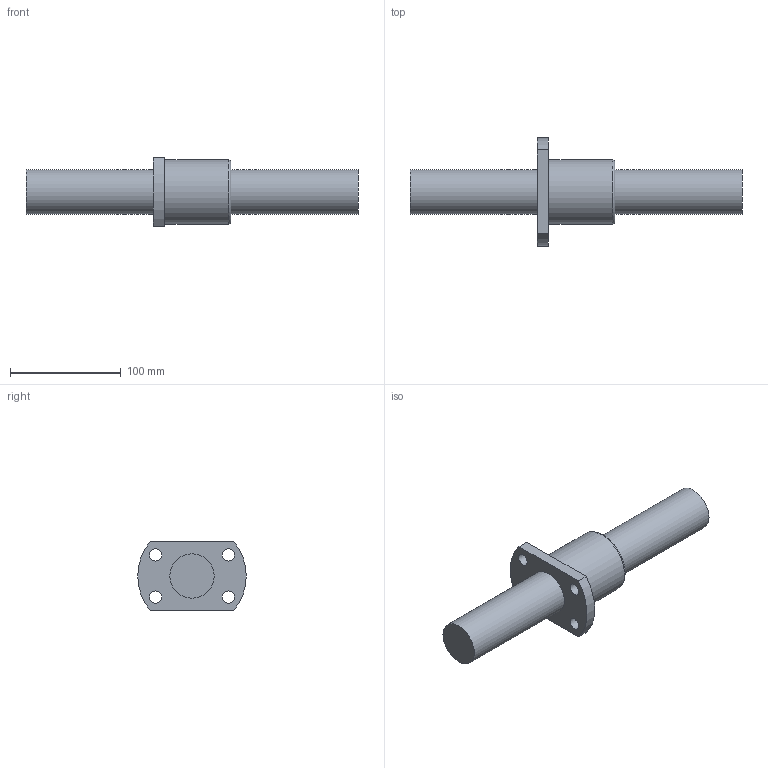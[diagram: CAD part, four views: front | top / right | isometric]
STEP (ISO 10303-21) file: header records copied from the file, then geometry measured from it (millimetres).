
FILE_DESCRIPTION((''),'2;1');
FILE_NAME('D:\製品 (図面)\カタログ用3D\ネジ関連\STEP形式\TMK\TMK40.stp','2010-06-02T15:26:15',('Tsuchiya'),(''),'Autodesk Inventor 10','Autodesk Inventor 10','');
FILE_SCHEMA(('AUTOMOTIVE_DESIGN { 1 0 10303 214 1 1 1 1 }'));
Length unit declared in the file: millimetre
Products named in the file (3): TMK40; TMK401; TMK402
Assembly tree (2 placements, depth 2):
  TMK40
    TMK401
    TMK402
Bounding box: 300 x 98 x 62 mm (x, y, z)
Volume: 500025.1 mm3; surface area: 71997.2 mm2
Topology: 2 solids, 2 shells, 18 faces, 41 edges, 28 vertices
Faces by surface type: plane 7, cylinder 5, bspline 5, torus 1
Full cylindrical faces by diameter (mm): 40 x2, 58 x1
Entity records: 628 total; most frequent: CARTESIAN_POINT 187, DIRECTION 84, ORIENTED_EDGE 56, AXIS2_PLACEMENT_3D 38, EDGE_LOOP 38, EDGE_CURVE 28, VERTEX_POINT 24, CIRCLE 20
